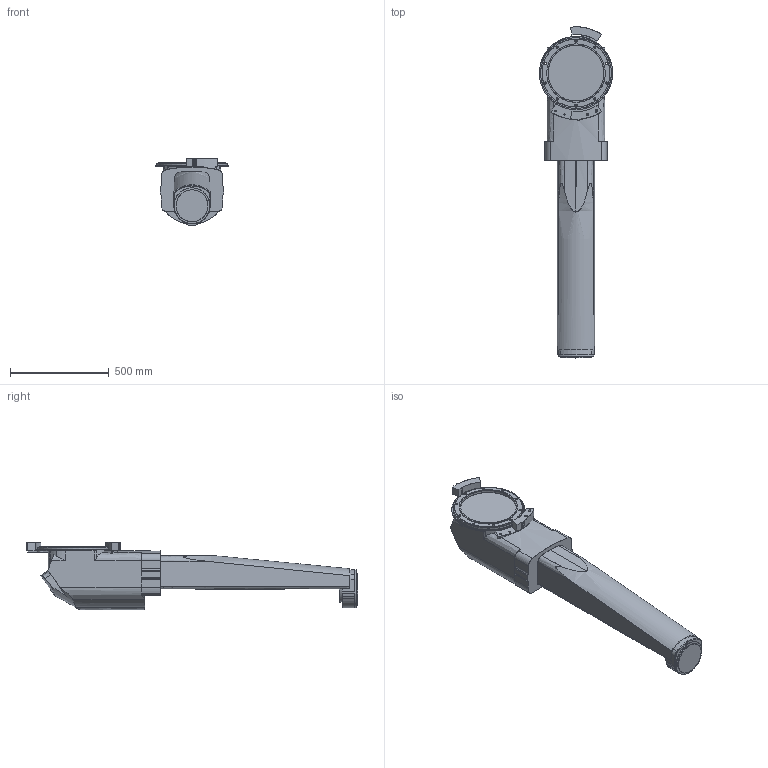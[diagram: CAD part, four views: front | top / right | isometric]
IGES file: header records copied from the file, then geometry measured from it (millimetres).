
Start section: SolidWorks IGES FILE using analytic representation for surfaces
Global section: file name: L:\Projekt\ABB Robotics\P685 PaintRobots2006 CAD-Models\CAD-Underlag IRB5500 TEMPO\SW2004\060711\Left\EngineSaveZip\iges\joints_links\IRB5500_12_T00F71B41V31H51_rev1_4.igs; native system: SolidWorks 2004 by SolidWorks Corporation; preprocessor: Version 5.3; author: joer; date: 060901.140411; units: millimetre
Bounding box: 369.97 x 1676.89 x 339 mm (x, y, z)
Surface area: 1514408.6 mm2 (no closed solid volume)
Topology: 0 solids, 0 shells, 305 faces, 4916 edges, 4915 vertices
Faces by surface type: revolution 165, bspline 140
